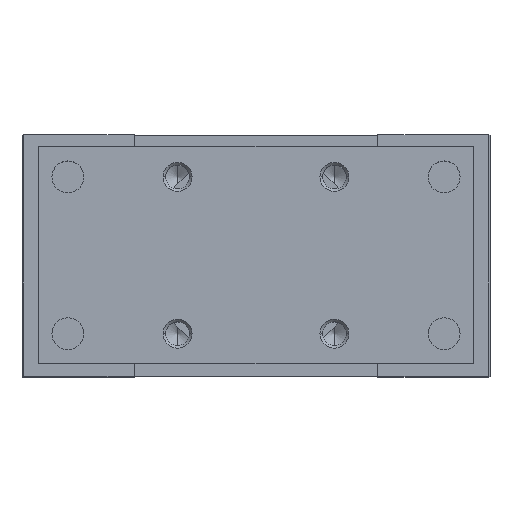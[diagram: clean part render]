
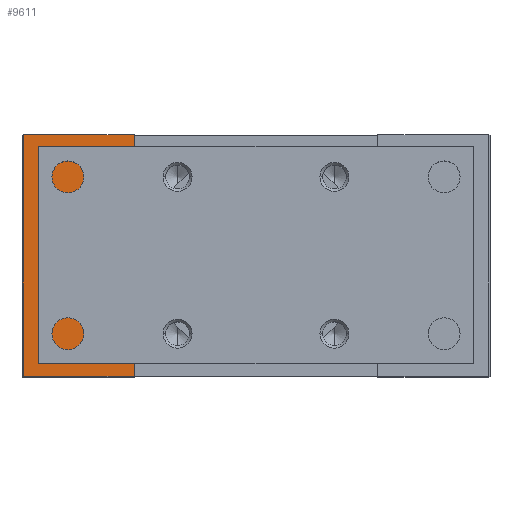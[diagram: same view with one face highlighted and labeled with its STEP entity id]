
A CAD part, top view. The second image highlights one B-rep face of the part: STEP entity #9611.
In plain terms, the highlighted planar face has unit normal (0, 0, 1).
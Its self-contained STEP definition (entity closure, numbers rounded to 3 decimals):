
#75 = EDGE_CURVE ( 'NONE', #7159, #4811, #1557, .T. ) ;
#127 = LINE ( 'NONE', #10389, #9480 ) ;
#217 = EDGE_CURVE ( 'NONE', #7609, #1130, #127, .T. ) ;
#634 = ORIENTED_EDGE ( 'NONE', *, *, #10290, .F. ) ;
#672 = ORIENTED_EDGE ( 'NONE', *, *, #7202, .T. ) ;
#862 = CARTESIAN_POINT ( 'NONE',  ( -48.5, -25., 49. ) ) ;
#1068 = AXIS2_PLACEMENT_3D ( 'NONE', #9929, #6544, #5644 ) ;
#1071 = LINE ( 'NONE', #4516, #4351 ) ;
#1130 = VERTEX_POINT ( 'NONE', #4045 ) ;
#1292 = FACE_BOUND ( 'NONE', #4626, .T. ) ;
#1326 = CARTESIAN_POINT ( 'NONE',  ( -31., 0., 49. ) ) ;
#1366 = EDGE_CURVE ( 'NONE', #4554, #5572, #2803, .T. ) ;
#1557 = LINE ( 'NONE', #862, #7846 ) ;
#2659 = DIRECTION ( 'NONE',  ( 1., 0., 0. ) ) ;
#2803 = CIRCLE ( 'NONE', #11103, 6. ) ;
#3200 = DIRECTION ( 'NONE',  ( 1., 0., 0. ) ) ;
#3474 = CARTESIAN_POINT ( 'NONE',  ( -25.25, 25., 49. ) ) ;
#3552 = CARTESIAN_POINT ( 'NONE',  ( -48.2, -25., 49. ) ) ;
#3581 = LINE ( 'NONE', #3474, #7785 ) ;
#3951 = FACE_OUTER_BOUND ( 'NONE', #6142, .T. ) ;
#4045 = CARTESIAN_POINT ( 'NONE',  ( -25.25, 25., 49. ) ) ;
#4317 = AXIS2_PLACEMENT_3D ( 'NONE', #8607, #6083, #4500 ) ;
#4351 = VECTOR ( 'NONE', #7942, 1000. ) ;
#4500 = DIRECTION ( 'NONE',  ( 1., 0., 0. ) ) ;
#4516 = CARTESIAN_POINT ( 'NONE',  ( -48.2, 50., 49. ) ) ;
#4554 = VERTEX_POINT ( 'NONE', #7121 ) ;
#4626 = EDGE_LOOP ( 'NONE', ( #6338, #5943 ) ) ;
#4811 = VERTEX_POINT ( 'NONE', #9323 ) ;
#4899 = CARTESIAN_POINT ( 'NONE',  ( -37., 0., 49. ) ) ;
#5416 = EDGE_CURVE ( 'NONE', #5572, #4554, #6833, .T. ) ;
#5572 = VERTEX_POINT ( 'NONE', #1326 ) ;
#5644 = DIRECTION ( 'NONE',  ( 0., -1., 0. ) ) ;
#5704 = PLANE ( 'NONE',  #1068 ) ;
#5943 = ORIENTED_EDGE ( 'NONE', *, *, #5416, .F. ) ;
#6083 = DIRECTION ( 'NONE',  ( 0., 0., 1. ) ) ;
#6142 = EDGE_LOOP ( 'NONE', ( #7129, #672, #9748, #634 ) ) ;
#6338 = ORIENTED_EDGE ( 'NONE', *, *, #1366, .F. ) ;
#6544 = DIRECTION ( 'NONE',  ( 0., 0., -1. ) ) ;
#6833 = CIRCLE ( 'NONE', #4317, 6. ) ;
#7121 = CARTESIAN_POINT ( 'NONE',  ( -43., 0., 49. ) ) ;
#7129 = ORIENTED_EDGE ( 'NONE', *, *, #217, .F. ) ;
#7159 = VERTEX_POINT ( 'NONE', #3552 ) ;
#7202 = EDGE_CURVE ( 'NONE', #7609, #7159, #1071, .T. ) ;
#7311 = DIRECTION ( 'NONE',  ( 0., 0., 1. ) ) ;
#7609 = VERTEX_POINT ( 'NONE', #9617 ) ;
#7785 = VECTOR ( 'NONE', #10515, 1000. ) ;
#7846 = VECTOR ( 'NONE', #8641, 1000. ) ;
#7942 = DIRECTION ( 'NONE',  ( 0., -1., 0. ) ) ;
#8607 = CARTESIAN_POINT ( 'NONE',  ( -37., 0., 49. ) ) ;
#8641 = DIRECTION ( 'NONE',  ( 1., 0., 0. ) ) ;
#9323 = CARTESIAN_POINT ( 'NONE',  ( -25.25, -25., 49. ) ) ;
#9480 = VECTOR ( 'NONE', #2659, 1000. ) ;
#9611 = ADVANCED_FACE ( 'NONE', ( #3951, #1292 ), #5704, .F. ) ;
#9617 = CARTESIAN_POINT ( 'NONE',  ( -48.2, 25., 49. ) ) ;
#9748 = ORIENTED_EDGE ( 'NONE', *, *, #75, .T. ) ;
#9929 = CARTESIAN_POINT ( 'NONE',  ( -48.5, 25., 49. ) ) ;
#10290 = EDGE_CURVE ( 'NONE', #1130, #4811, #3581, .T. ) ;
#10389 = CARTESIAN_POINT ( 'NONE',  ( -48.5, 25., 49. ) ) ;
#10515 = DIRECTION ( 'NONE',  ( 0., -1., 0. ) ) ;
#11103 = AXIS2_PLACEMENT_3D ( 'NONE', #4899, #7311, #3200 ) ;
